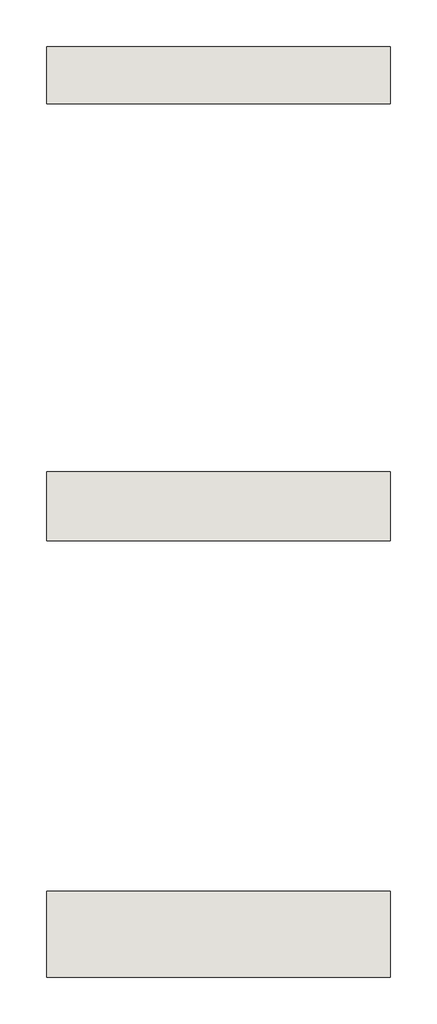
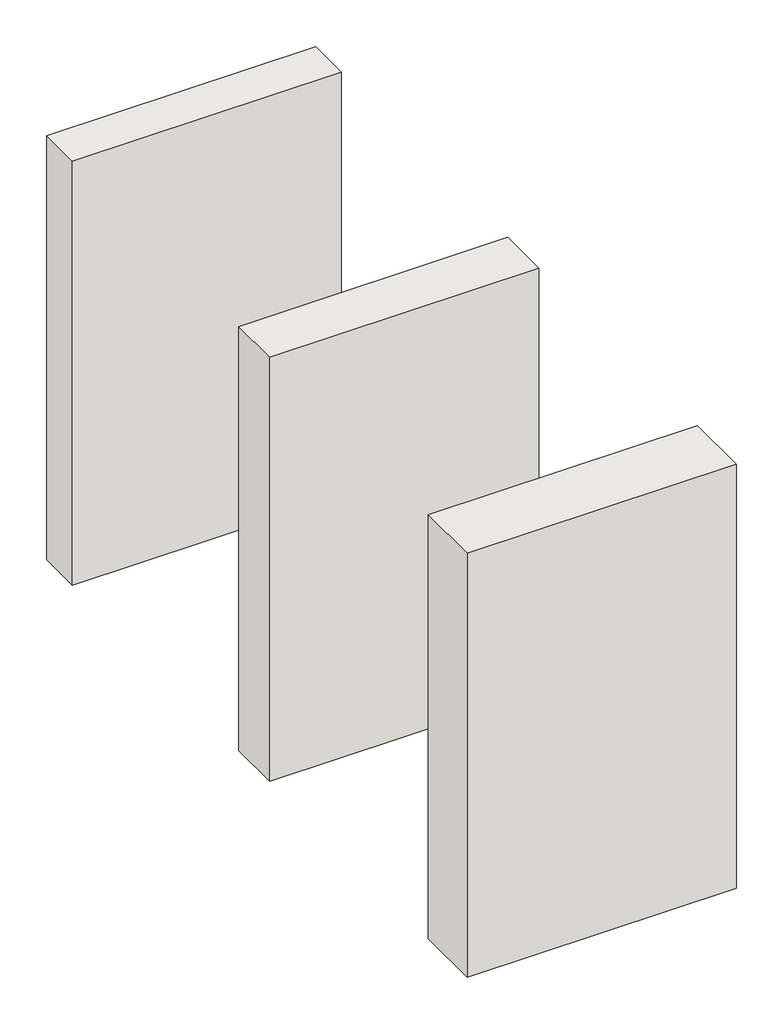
# One storey: 3 walls.
"""IFC4 building model written with IfcOpenShell, lengths in millimetres."""

from ifc_helpers import new_model, si_unit, origin, origin_with_axes, place, context, project, spatial, polyline, outline, extrude, element, save

model = new_model("IFC4")

# Units and contexts
model_context = context("Model", 3, world=origin())
ifc_project = project(units=[si_unit("LENGTHUNIT", "METRE", prefix="MILLI")], contexts=[model_context])

# Site, building, storey
site = spatial("IfcSite", under=ifc_project)
building = spatial("IfcBuilding", under=site)
storey = spatial("IfcBuildingStorey", under=building, Name="Референтни ниво", Elevation=0.0)

# Walls
placement = place(None, origin())
element("IfcWall", 1, ObjectType="Knauf Insulation - NaturBoard VENTI PLUS - 100 mm - 100 x 1000 x 600 mm", at=placement, inside=storey, context=model_context, shape_type="SweptSolid", body=[
    extrude(outline(polyline([(-248230.7417825, 183187.205474), (-248830.7417825, 183187.205474), (-248830.7417825, 183287.205474), (-248230.7417825, 183287.205474), (-248230.7417825, 183187.205474)])), origin_with_axes(), (0.0, 0.0, 1.0), 1000.0),
])
element("IfcWall", 2, ObjectType="Knauf Insulation - NaturBoard VENTI PLUS - 120 mm - 120 x 1000 x 600 mm", at=placement, inside=storey, context=model_context, shape_type="SweptSolid", body=[
    extrude(outline(polyline([(-248230.7417825, 182424.705474), (-248830.7417825, 182424.705474), (-248830.7417825, 182544.705474), (-248230.7417825, 182544.705474), (-248230.7417825, 182424.705474)])), origin_with_axes(), (0.0, 0.0, 1.0), 1000.0),
])
element("IfcWall", 3, ObjectType="Knauf Insulation - NaturBoard VENTI PLUS - 150 mm - 150 x 1000 x 600 mm", at=placement, inside=storey, context=model_context, shape_type="SweptSolid", body=[
    extrude(outline(polyline([(-248230.7417825, 181662.205474), (-248830.7417825, 181662.205474), (-248830.7417825, 181812.205474), (-248230.7417825, 181812.205474), (-248230.7417825, 181662.205474)])), origin_with_axes(), (0.0, 0.0, 1.0), 1000.0),
])

save(model, "model.ifc")
